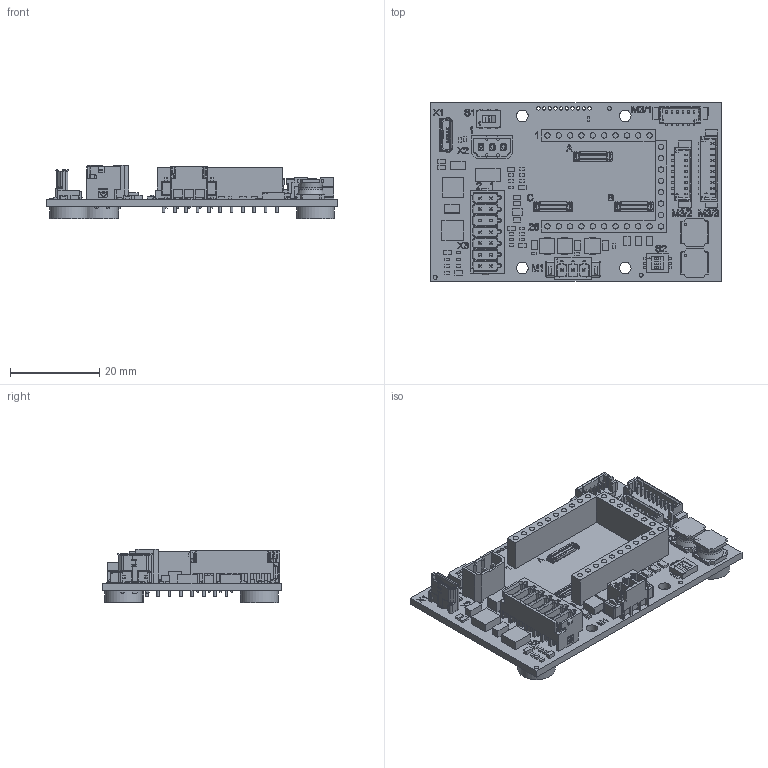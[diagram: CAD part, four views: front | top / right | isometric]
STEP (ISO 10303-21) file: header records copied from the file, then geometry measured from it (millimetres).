
FILE_DESCRIPTION(/* description */ (''),/* implementation_level */ '2;1');
FILE_NAME(/* name */ 'MC3001_DC_IE_H_2_IEH3_L.stp',/* time_stamp */ '2021-01-13T14:26:22+01:00',/* author */ ('DR. FRITZ FAULHABER GmbH & Co. KG'),/* organization */ ('DR. FRITZ FAULHABER GmbH & Co. KG'),/* preprocessor_version */ 'ST-DEVELOPER v16.7',/* originating_system */ 'SIEMENS PLM Software NX 1919',/* authorisation */ '');
FILE_SCHEMA (('AUTOMOTIVE_DESIGN { 1 0 10303 214 3 1 1 1 }'));
Products named in the file (1): 012013_B_1-TP-00205
Bounding box: 65 x 40 x 11.92 mm (x, y, z)
Volume: 8139.3 mm3; surface area: 12205.2 mm2
Topology: 1 solids, 7 shells, 6929 faces, 18605 edges, 12168 vertices
Faces by surface type: plane 5553, cylinder 1047, bspline 153, extrusion 126, cone 30, torus 10, sphere 10
Full cylindrical faces by diameter (mm): 0.6 x28, 0.75 x10, 0.8 x28, 0.9 x3, 1.1 x3, 1.2 x50, 2.6 x4, 8.45 x4
Entity records: 224508 total; most frequent: CARTESIAN_POINT 51666, ORIENTED_EDGE 36746, DIRECTION 32983, EDGE_CURVE 18373, VECTOR 15423, LINE 15297, VERTEX_POINT 12102, AXIS2_PLACEMENT_3D 8780
